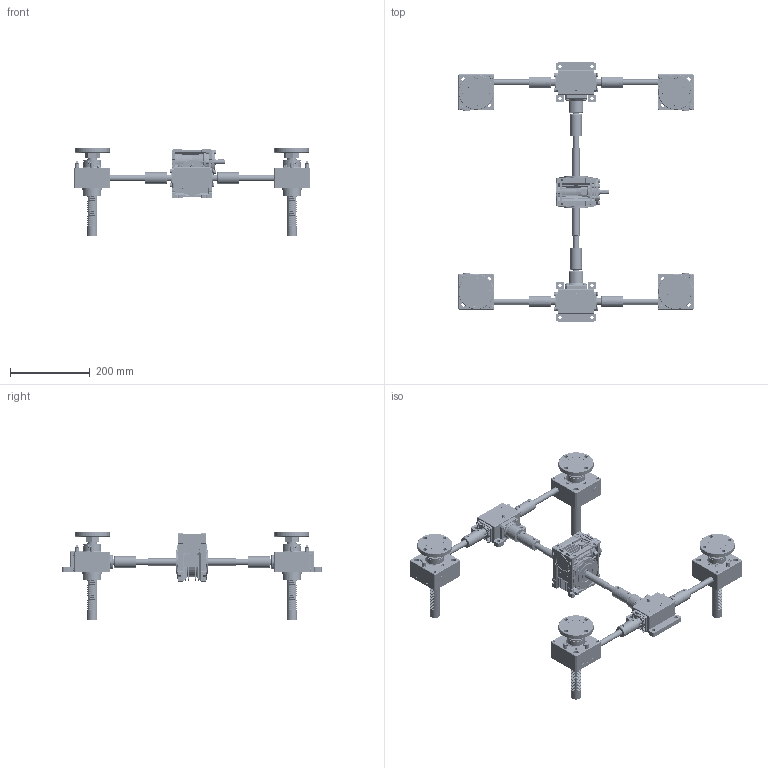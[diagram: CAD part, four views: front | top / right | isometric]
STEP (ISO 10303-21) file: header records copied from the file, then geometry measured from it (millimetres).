
FILE_DESCRIPTION(('STEP AP203'),'1');
FILE_NAME('SPMH500F-500x500-250-100ST-040.stp','2016-08-08T01:27:12',(' '),(' '),'Spatial InterOp 3D',' ',' ');
FILE_SCHEMA(('CONFIG_CONTROL_DESIGN'));
Length unit declared in the file: millimetre
Products named in the file (180): SPMH500F-500x500-250-100ST-040; Rack Gear(SP-500F); Flange.1-Part; Flange.1; Joint.1; Nut.1; Flange.2-Part; Flange.2; Joint.2; Nut.2; Flange.3-Part; Flange.3; Joint.3; Nut.3; Flange.4-Part; Flange.4; Joint.4; Nut.4; Body.1-Part; Nipple; Bolt; Hole Cover(SP-500); Gear Box.1(Upper); Gear Box.1(Lower); LowerGearBox.1; RJ05-4SCJ-610X600-100ST_CAP; LABEL-B.1; ___; 파트18; __; Body.2-Part; Gear Box.2(Upper); Gear Box.2(Lower); Symmetry of LowerGearBox.1.1; Body.3-Part; Gear Box.3(Upper); Gear Box.3(Lower); Symmetry of Symmetry of LowerGearBox.1.1.1; Body.4-Part; Gear Box.4(Upper)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
Assembly tree (183 placements, depth 6):
  SPMH500F-500x500-250-100ST-040
    Rack Gear(SP-500F)  x4
    Flange.1-Part
      Flange.1
      Joint.1
      Nut.1
    Flange.2-Part
      Flange.2
      Joint.2
      Nut.2
    Flange.3-Part
      Flange.3
      Joint.3
      Nut.3
    Flange.4-Part
      Flange.4
      Joint.4
      Nut.4
    Body.1-Part
      Nipple
      Nipple
      Bolt
      Bolt
      Bolt
      Bolt
      Bolt
      Hole Cover(SP-500)
      Gear Box.1(Upper)
      Gear Box.1(Lower)
        LowerGearBox.1
      __
        ___
          RJ05-4SCJ-610X600-100ST_CAP
            LABEL-B.1
          파트18
    Body.2-Part
      Nipple
      Nipple
      Bolt
      Bolt
      Bolt
      Bolt
      Bolt
      Hole Cover(SP-500)
      Gear Box.2(Upper)
      Gear Box.2(Lower)
        Symmetry of LowerGearBox.1.1
      __
        ___
          RJ05-4SCJ-610X600-100ST_CAP
            LABEL-B.1
          파트18
    Body.3-Part
      Nipple
      Nipple
      Bolt
      Bolt
      Bolt
      Bolt
      Bolt
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Bounding box: 590.44 x 649 x 220 mm (x, y, z)
Volume: 2679625.6 mm3; surface area: 1024839.4 mm2
Topology: 155 solids, 931 shells, 14686 faces, 43372 edges, 30170 vertices
Faces by surface type: plane 12773, cylinder 1159, cone 372, revolution 186, extrusion 170, bspline 20, sphere 4, torus 2
Full cylindrical faces by diameter (mm): 3.113 x2, 4.8 x8, 6 x136, 6.6 x2, 7 x20, 8.5 x8, 9 x16, 9.5 x16, 9.886 x8, 10 x24, 10.5 x40, 11 x1, 13.5 x8, 15 x18, 17 x7, 18 x11, 22 x4, 23 x4, 25 x14, 26 x8, 27 x4, 28 x9, 28.3 x8, 29 x6, 29.5 x8, 30 x5, 34 x4, 35 x6, 36 x2, 37 x4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
Entity records: 484221 total; most frequent: CARTESIAN_POINT 102976, ORIENTED_EDGE 77477, DIRECTION 70590, EDGE_CURVE 40882, VECTOR 36202, LINE 36032, VERTEX_POINT 28987, AXIS2_PLACEMENT_3D 17101
